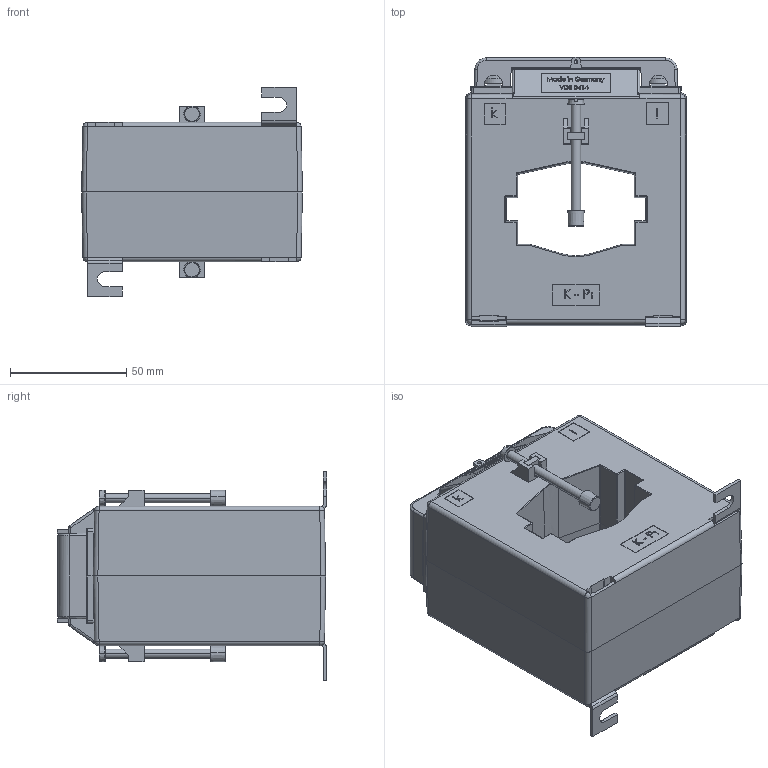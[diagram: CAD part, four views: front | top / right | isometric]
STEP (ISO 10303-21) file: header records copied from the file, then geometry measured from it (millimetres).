
FILE_DESCRIPTION (( 'STEP AP214' ), '1' );
FILE_NAME ('EASK61.6_kpl.STEP', '2011-11-30T09:01:23', ( ' ' ), ( '' ), 'SwSTEP 2.0', 'SolidWorks 2010', '' );
FILE_SCHEMA (( 'AUTOMOTIVE_DESIGN' ));
Length unit declared in the file: millimetre
Products named in the file (9): Plombierabdeckung_ASK31_6_01; Fusswinkel_1,5; Isolierschutzkappe; Zylinderschraube DIN 84 4.8 VG M 4 x 50; ASK61.6_11; EASK61.6_kpl; Vierkantmutter_M4; Linsenschraube DIN 7985 4.8 VZ M 5 x 10; MBS_WN-003_04_Klemme_WN-003_02
Assembly tree (17 placements, depth 2):
  EASK61.6_kpl
    Vierkantmutter_M4  x2
    Linsenschraube DIN 7985 4.8 VZ M 5 x 10  x4
    Isolierschutzkappe  x2
    Zylinderschraube DIN 84 4.8 VG M 4 x 50  x2
    Fusswinkel_1,5  x2
    ASK61.6_11  x2
    MBS_WN-003_04_Klemme_WN-003_02  x2
    Plombierabdeckung_ASK31_6_01
Bounding box: 95 x 116 x 90 mm (x, y, z)
Volume: 484110 mm3; surface area: 90879.8 mm2
Topology: 19 solids, 19 shells, 1574 faces, 4063 edges, 2604 vertices
Faces by surface type: plane 986, bspline 266, cylinder 211, sphere 42, cone 35, torus 34
Entity records: 31104 total; most frequent: CARTESIAN_POINT 11757, ORIENTED_EDGE 4232, DIRECTION 3373, EDGE_CURVE 2116, LINE 1495, VECTOR 1495, VERTEX_POINT 1371, AXIS2_PLACEMENT_3D 939
